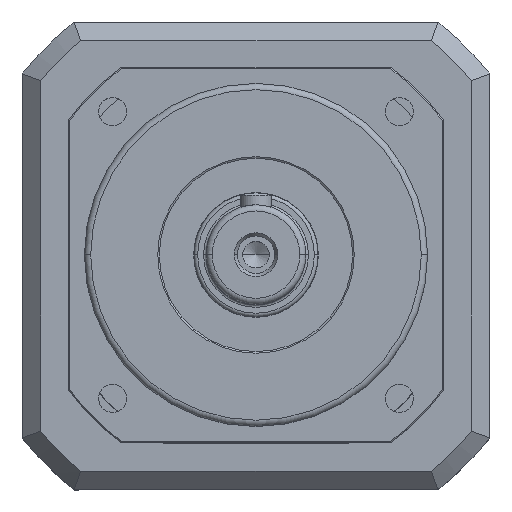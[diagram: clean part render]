
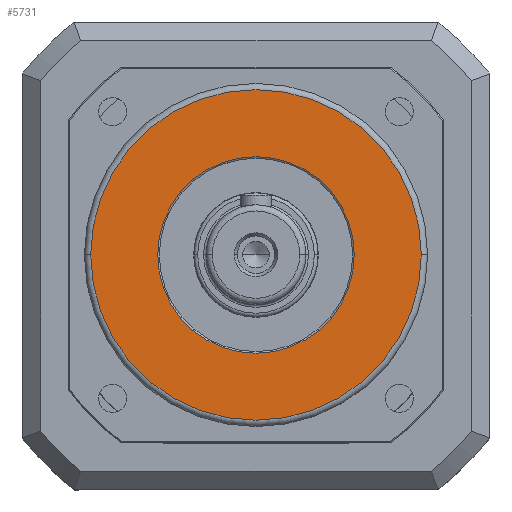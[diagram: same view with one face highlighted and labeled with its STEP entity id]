
A CAD part, top view. The second image highlights one B-rep face of the part: STEP entity #5731.
In plain terms, the highlighted planar face has unit normal (0, 0, 1).
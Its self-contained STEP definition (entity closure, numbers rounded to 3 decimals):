
#1171 = EDGE_CURVE ( 'NONE', #14081, #14078, #4235, .T. ) ;
#1172 = EDGE_CURVE ( 'NONE', #14089, #14083, #4237, .T. ) ;
#1907 = EDGE_CURVE ( 'NONE', #14078, #14081, #7379, .T. ) ;
#2514 = EDGE_LOOP ( 'NONE', ( #3228, #3230 ) ) ;
#2515 = EDGE_LOOP ( 'NONE', ( #3232, #3231 ) ) ;
#3228 = ORIENTED_EDGE ( 'NONE', *, *, #1907, .T. ) ;
#3230 = ORIENTED_EDGE ( 'NONE', *, *, #1171, .T. ) ;
#3231 = ORIENTED_EDGE ( 'NONE', *, *, #1172, .T. ) ;
#3232 = ORIENTED_EDGE ( 'NONE', *, *, #7857, .T. ) ;
#4235 = CIRCLE ( 'NONE', #4236, 31.5 ) ;
#4236 = AXIS2_PLACEMENT_3D ( 'NONE', #6336, #6337, #6338 ) ;
#4237 = CIRCLE ( 'NONE', #4238, 53. ) ;
#4238 = AXIS2_PLACEMENT_3D ( 'NONE', #6339, #6340, #6341 ) ;
#5731 = ADVANCED_FACE ( 'NONE', ( #15121, #15122 ), #15431, .T. ) ;
#6336 = CARTESIAN_POINT ( 'NONE',  ( 0., 0., 12. ) ) ;
#6337 = DIRECTION ( 'NONE',  ( 0., 0., -1. ) ) ;
#6338 = DIRECTION ( 'NONE',  ( 1., 0., 0. ) ) ;
#6339 = CARTESIAN_POINT ( 'NONE',  ( 0., 0., 12. ) ) ;
#6340 = DIRECTION ( 'NONE',  ( 0., 0., 1. ) ) ;
#6341 = DIRECTION ( 'NONE',  ( 1., 0., 0. ) ) ;
#7379 = CIRCLE ( 'NONE', #7381, 31.5 ) ;
#7381 = AXIS2_PLACEMENT_3D ( 'NONE', #8089, #8090, #8091 ) ;
#7857 = EDGE_CURVE ( 'NONE', #14083, #14089, #18173, .T. ) ;
#8089 = CARTESIAN_POINT ( 'NONE',  ( 0., 0., 12. ) ) ;
#8090 = DIRECTION ( 'NONE',  ( 0., 0., -1. ) ) ;
#8091 = DIRECTION ( 'NONE',  ( 1., 0., 0. ) ) ;
#14078 = VERTEX_POINT ( 'NONE', #23072 ) ;
#14081 = VERTEX_POINT ( 'NONE', #23075 ) ;
#14083 = VERTEX_POINT ( 'NONE', #23077 ) ;
#14089 = VERTEX_POINT ( 'NONE', #23083 ) ;
#15121 = FACE_BOUND ( 'NONE', #2514, .T. ) ;
#15122 = FACE_OUTER_BOUND ( 'NONE', #2515, .T. ) ;
#15391 = AXIS2_PLACEMENT_3D ( 'NONE', #15432, #15433, #15434 ) ;
#15431 = PLANE ( 'NONE',  #15391 ) ;
#15432 = CARTESIAN_POINT ( 'NONE',  ( 0., 0., 12. ) ) ;
#15433 = DIRECTION ( 'NONE',  ( 0., 0., 1. ) ) ;
#15434 = DIRECTION ( 'NONE',  ( 1., 0., 0. ) ) ;
#17957 = CARTESIAN_POINT ( 'NONE',  ( 0., 0., 12. ) ) ;
#17958 = DIRECTION ( 'NONE',  ( 0., 0., 1. ) ) ;
#17959 = DIRECTION ( 'NONE',  ( 1., 0., 0. ) ) ;
#18173 = CIRCLE ( 'NONE', #18185, 53. ) ;
#18185 = AXIS2_PLACEMENT_3D ( 'NONE', #17957, #17958, #17959 ) ;
#23072 = CARTESIAN_POINT ( 'NONE',  ( 31.5, 0., 12. ) ) ;
#23075 = CARTESIAN_POINT ( 'NONE',  ( -31.5, 0., 12. ) ) ;
#23077 = CARTESIAN_POINT ( 'NONE',  ( 53., 0., 12. ) ) ;
#23083 = CARTESIAN_POINT ( 'NONE',  ( -53., 0., 12. ) ) ;
